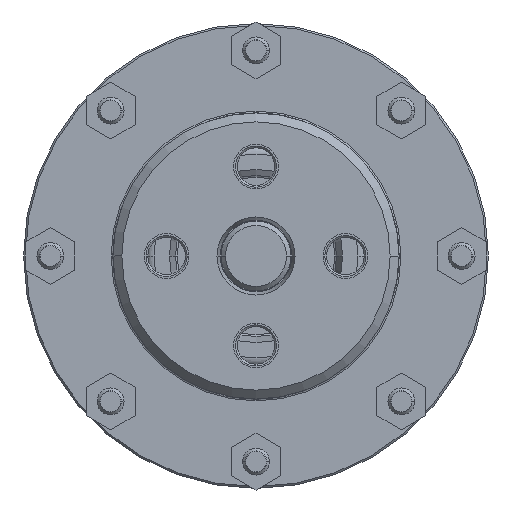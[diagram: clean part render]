
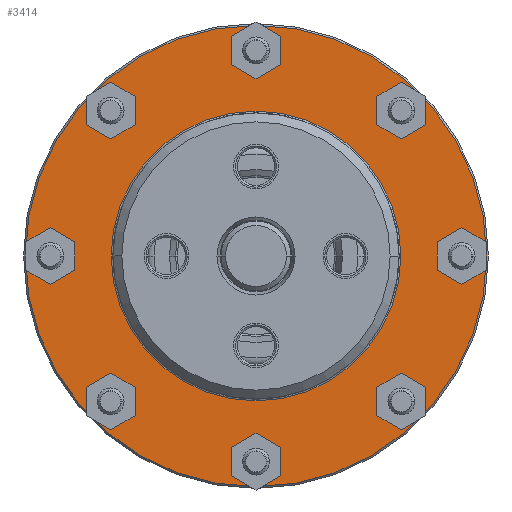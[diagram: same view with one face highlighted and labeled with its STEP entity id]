
A CAD part, left-side view. The second image highlights one B-rep face of the part: STEP entity #3414.
In plain terms, the highlighted planar face has unit normal (-1, 0, 0).
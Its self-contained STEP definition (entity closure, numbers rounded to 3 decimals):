
#1441=CARTESIAN_POINT('',(-5.,23.,0.));
#1442=DIRECTION('',(-1.,0.,0.));
#1443=DIRECTION('',(0.,-1.,0.));
#1444=AXIS2_PLACEMENT_3D('',#1441,#1442,#1443);
#1449=CARTESIAN_POINT('',(-5.,23.,0.));
#1450=DIRECTION('',(-1.,0.,0.));
#1451=DIRECTION('',(0.,1.,0.));
#1452=AXIS2_PLACEMENT_3D('',#1449,#1450,#1451);
#1457=CARTESIAN_POINT('',(-5.,16.263,16.263));
#1458=DIRECTION('',(-1.,0.,0.));
#1459=DIRECTION('',(0.,-0.707,-0.707));
#1460=AXIS2_PLACEMENT_3D('',#1457,#1458,#1459);
#1465=CARTESIAN_POINT('',(-5.,16.263,16.263));
#1466=DIRECTION('',(-1.,0.,0.));
#1467=DIRECTION('',(0.,0.707,0.707));
#1468=AXIS2_PLACEMENT_3D('',#1465,#1466,#1467);
#1473=CARTESIAN_POINT('',(-5.,0.,23.));
#1474=DIRECTION('',(-1.,0.,0.));
#1475=DIRECTION('',(0.,0.,-1.));
#1476=AXIS2_PLACEMENT_3D('',#1473,#1474,#1475);
#1481=CARTESIAN_POINT('',(-5.,0.,23.));
#1482=DIRECTION('',(-1.,0.,0.));
#1483=DIRECTION('',(0.,0.,1.));
#1484=AXIS2_PLACEMENT_3D('',#1481,#1482,#1483);
#1489=CARTESIAN_POINT('',(-5.,-16.263,16.263));
#1490=DIRECTION('',(-1.,0.,0.));
#1491=DIRECTION('',(0.,0.707,-0.707));
#1492=AXIS2_PLACEMENT_3D('',#1489,#1490,#1491);
#1497=CARTESIAN_POINT('',(-5.,-16.263,16.263));
#1498=DIRECTION('',(-1.,0.,0.));
#1499=DIRECTION('',(0.,-0.707,0.707));
#1500=AXIS2_PLACEMENT_3D('',#1497,#1498,#1499);
#1505=CARTESIAN_POINT('',(-5.,-23.,0.));
#1506=DIRECTION('',(-1.,0.,0.));
#1507=DIRECTION('',(0.,1.,0.));
#1508=AXIS2_PLACEMENT_3D('',#1505,#1506,#1507);
#1513=CARTESIAN_POINT('',(-5.,-23.,0.));
#1514=DIRECTION('',(-1.,0.,0.));
#1515=DIRECTION('',(0.,-1.,0.));
#1516=AXIS2_PLACEMENT_3D('',#1513,#1514,#1515);
#1521=CARTESIAN_POINT('',(-5.,-16.263,-16.263));
#1522=DIRECTION('',(-1.,0.,0.));
#1523=DIRECTION('',(0.,0.707,0.707));
#1524=AXIS2_PLACEMENT_3D('',#1521,#1522,#1523);
#1529=CARTESIAN_POINT('',(-5.,-16.263,-16.263));
#1530=DIRECTION('',(-1.,0.,0.));
#1531=DIRECTION('',(0.,-0.707,-0.707));
#1532=AXIS2_PLACEMENT_3D('',#1529,#1530,#1531);
#1537=CARTESIAN_POINT('',(-5.,0.,-23.));
#1538=DIRECTION('',(-1.,0.,0.));
#1539=DIRECTION('',(0.,0.,1.));
#1540=AXIS2_PLACEMENT_3D('',#1537,#1538,#1539);
#1545=CARTESIAN_POINT('',(-5.,0.,-23.));
#1546=DIRECTION('',(-1.,0.,0.));
#1547=DIRECTION('',(0.,0.,-1.));
#1548=AXIS2_PLACEMENT_3D('',#1545,#1546,#1547);
#1553=CARTESIAN_POINT('',(-5.,16.263,-16.263));
#1554=DIRECTION('',(-1.,0.,0.));
#1555=DIRECTION('',(0.,-0.707,0.707));
#1556=AXIS2_PLACEMENT_3D('',#1553,#1554,#1555);
#1561=CARTESIAN_POINT('',(-5.,16.263,-16.263));
#1562=DIRECTION('',(-1.,0.,0.));
#1563=DIRECTION('',(0.,0.707,-0.707));
#1564=AXIS2_PLACEMENT_3D('',#1561,#1562,#1563);
#1569=CARTESIAN_POINT('',(-5.,0.,0.));
#1570=DIRECTION('',(1.,0.,0.));
#1571=DIRECTION('',(0.,1.,0.));
#1572=AXIS2_PLACEMENT_3D('',#1569,#1570,#1571);
#1577=CARTESIAN_POINT('',(-5.,0.,0.));
#1578=DIRECTION('',(1.,0.,0.));
#1579=DIRECTION('',(0.,-1.,0.));
#1580=AXIS2_PLACEMENT_3D('',#1577,#1578,#1579);
#1585=CARTESIAN_POINT('',(-5.,0.,0.));
#1586=DIRECTION('',(-1.,0.,0.));
#1587=DIRECTION('',(0.,1.,0.));
#1588=AXIS2_PLACEMENT_3D('',#1585,#1586,#1587);
#1593=CARTESIAN_POINT('',(-5.,0.,0.));
#1594=DIRECTION('',(-1.,0.,0.));
#1595=DIRECTION('',(0.,-1.,0.));
#1596=AXIS2_PLACEMENT_3D('',#1593,#1594,#1595);
#1813=CARTESIAN_POINT('',(-5.,16.2,0.));
#1814=CARTESIAN_POINT('',(-5.,-16.2,0.));
#1815=VERTEX_POINT('',#1813);
#1816=VERTEX_POINT('',#1814);
#1829=CARTESIAN_POINT('',(-5.,21.25,0.));
#1830=CARTESIAN_POINT('',(-5.,24.75,0.));
#1831=VERTEX_POINT('',#1829);
#1832=VERTEX_POINT('',#1830);
#1837=CARTESIAN_POINT('',(-5.,15.026,15.026));
#1838=CARTESIAN_POINT('',(-5.,17.501,17.501));
#1839=VERTEX_POINT('',#1837);
#1840=VERTEX_POINT('',#1838);
#1845=CARTESIAN_POINT('',(-5.,0.,21.25));
#1846=CARTESIAN_POINT('',(-5.,0.,24.75));
#1847=VERTEX_POINT('',#1845);
#1848=VERTEX_POINT('',#1846);
#1853=CARTESIAN_POINT('',(-5.,-15.026,15.026));
#1854=CARTESIAN_POINT('',(-5.,-17.501,17.501));
#1855=VERTEX_POINT('',#1853);
#1856=VERTEX_POINT('',#1854);
#1861=CARTESIAN_POINT('',(-5.,-21.25,0.));
#1862=CARTESIAN_POINT('',(-5.,-24.75,0.));
#1863=VERTEX_POINT('',#1861);
#1864=VERTEX_POINT('',#1862);
#1869=CARTESIAN_POINT('',(-5.,-15.026,-15.026));
#1870=CARTESIAN_POINT('',(-5.,-17.501,-17.501));
#1871=VERTEX_POINT('',#1869);
#1872=VERTEX_POINT('',#1870);
#1877=CARTESIAN_POINT('',(-5.,0.,-21.25));
#1878=CARTESIAN_POINT('',(-5.,0.,-24.75));
#1879=VERTEX_POINT('',#1877);
#1880=VERTEX_POINT('',#1878);
#1885=CARTESIAN_POINT('',(-5.,15.026,-15.026));
#1886=CARTESIAN_POINT('',(-5.,17.501,-17.501));
#1887=VERTEX_POINT('',#1885);
#1888=VERTEX_POINT('',#1886);
#1965=CARTESIAN_POINT('',(-5.,25.8,0.));
#1966=CARTESIAN_POINT('',(-5.,-25.8,0.));
#1967=VERTEX_POINT('',#1965);
#1968=VERTEX_POINT('',#1966);
#3351=CARTESIAN_POINT('',(-5.,0.,0.));
#3352=DIRECTION('',(1.,0.,0.));
#3353=DIRECTION('',(0.,-1.,0.));
#3354=AXIS2_PLACEMENT_3D('',#3351,#3352,#3353);
#3355=PLANE('',#3354);
#3357=ORIENTED_EDGE('',*,*,#3356,.F.);
#3359=ORIENTED_EDGE('',*,*,#3358,.F.);
#3360=EDGE_LOOP('',(#3357,#3359));
#3361=FACE_OUTER_BOUND('',#3360,.F.);
#3363=ORIENTED_EDGE('',*,*,#3362,.T.);
#3365=ORIENTED_EDGE('',*,*,#3364,.T.);
#3366=EDGE_LOOP('',(#3363,#3365));
#3367=FACE_BOUND('',#3366,.F.);
#3369=ORIENTED_EDGE('',*,*,#3368,.T.);
#3371=ORIENTED_EDGE('',*,*,#3370,.T.);
#3372=EDGE_LOOP('',(#3369,#3371));
#3373=FACE_BOUND('',#3372,.F.);
#3375=ORIENTED_EDGE('',*,*,#3374,.T.);
#3377=ORIENTED_EDGE('',*,*,#3376,.T.);
#3378=EDGE_LOOP('',(#3375,#3377));
#3379=FACE_BOUND('',#3378,.F.);
#3381=ORIENTED_EDGE('',*,*,#3380,.T.);
#3383=ORIENTED_EDGE('',*,*,#3382,.T.);
#3384=EDGE_LOOP('',(#3381,#3383));
#3385=FACE_BOUND('',#3384,.F.);
#3387=ORIENTED_EDGE('',*,*,#3386,.T.);
#3389=ORIENTED_EDGE('',*,*,#3388,.T.);
#3390=EDGE_LOOP('',(#3387,#3389));
#3391=FACE_BOUND('',#3390,.F.);
#3393=ORIENTED_EDGE('',*,*,#3392,.T.);
#3395=ORIENTED_EDGE('',*,*,#3394,.T.);
#3396=EDGE_LOOP('',(#3393,#3395));
#3397=FACE_BOUND('',#3396,.F.);
#3399=ORIENTED_EDGE('',*,*,#3398,.T.);
#3401=ORIENTED_EDGE('',*,*,#3400,.T.);
#3402=EDGE_LOOP('',(#3399,#3401));
#3403=FACE_BOUND('',#3402,.F.);
#3404=ORIENTED_EDGE('',*,*,#3338,.F.);
#3405=ORIENTED_EDGE('',*,*,#3317,.F.);
#3406=EDGE_LOOP('',(#3404,#3405));
#3407=FACE_BOUND('',#3406,.F.);
#3409=ORIENTED_EDGE('',*,*,#3408,.T.);
#3411=ORIENTED_EDGE('',*,*,#3410,.T.);
#3412=EDGE_LOOP('',(#3409,#3411));
#3413=FACE_BOUND('',#3412,.F.);
#3414=ADVANCED_FACE('',(#3361,#3367,#3373,#3379,#3385,#3391,#3397,#3403,#3407,
#3413),#3355,.F.);
#1445=CIRCLE('',#1444,1.75);
#1453=CIRCLE('',#1452,1.75);
#1461=CIRCLE('',#1460,1.75);
#1469=CIRCLE('',#1468,1.75);
#1477=CIRCLE('',#1476,1.75);
#1485=CIRCLE('',#1484,1.75);
#1493=CIRCLE('',#1492,1.75);
#1501=CIRCLE('',#1500,1.75);
#1509=CIRCLE('',#1508,1.75);
#1517=CIRCLE('',#1516,1.75);
#1525=CIRCLE('',#1524,1.75);
#1533=CIRCLE('',#1532,1.75);
#1541=CIRCLE('',#1540,1.75);
#1549=CIRCLE('',#1548,1.75);
#1557=CIRCLE('',#1556,1.75);
#1565=CIRCLE('',#1564,1.75);
#1573=CIRCLE('',#1572,16.2);
#1581=CIRCLE('',#1580,16.2);
#1589=CIRCLE('',#1588,25.8);
#1597=CIRCLE('',#1596,25.8);
#3317=EDGE_CURVE('',#1816,#1815,#1581,.T.);
#3338=EDGE_CURVE('',#1815,#1816,#1573,.T.);
#3356=EDGE_CURVE('',#1967,#1968,#1589,.T.);
#3358=EDGE_CURVE('',#1968,#1967,#1597,.T.);
#3362=EDGE_CURVE('',#1839,#1840,#1461,.T.);
#3364=EDGE_CURVE('',#1840,#1839,#1469,.T.);
#3368=EDGE_CURVE('',#1847,#1848,#1477,.T.);
#3370=EDGE_CURVE('',#1848,#1847,#1485,.T.);
#3374=EDGE_CURVE('',#1855,#1856,#1493,.T.);
#3376=EDGE_CURVE('',#1856,#1855,#1501,.T.);
#3380=EDGE_CURVE('',#1863,#1864,#1509,.T.);
#3382=EDGE_CURVE('',#1864,#1863,#1517,.T.);
#3386=EDGE_CURVE('',#1871,#1872,#1525,.T.);
#3388=EDGE_CURVE('',#1872,#1871,#1533,.T.);
#3392=EDGE_CURVE('',#1879,#1880,#1541,.T.);
#3394=EDGE_CURVE('',#1880,#1879,#1549,.T.);
#3398=EDGE_CURVE('',#1887,#1888,#1557,.T.);
#3400=EDGE_CURVE('',#1888,#1887,#1565,.T.);
#3408=EDGE_CURVE('',#1831,#1832,#1445,.T.);
#3410=EDGE_CURVE('',#1832,#1831,#1453,.T.);
